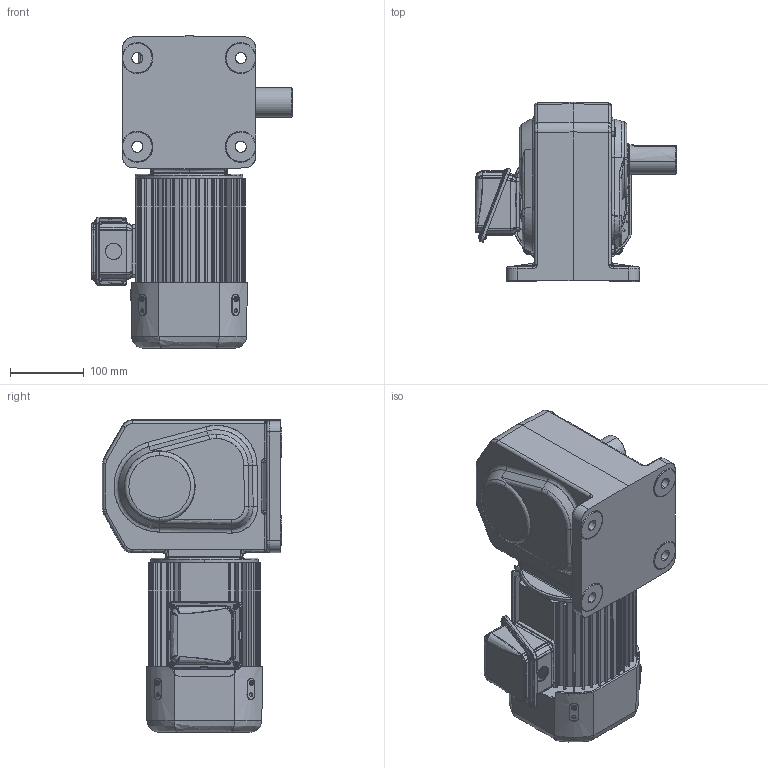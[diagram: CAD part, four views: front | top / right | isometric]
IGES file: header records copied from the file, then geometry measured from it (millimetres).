
Start section: SolidWorks IGES file using analytic representation for surfaces
Global section: file name: \\100.100.100.8\1_共有作業フォルダ\1-5_３Ｄデータ\solidworks\personal-folder\H.Nagayama\HL外形\HL(3D)\igs\TMHLB-07-(80~240)B.IGS; native system: SolidWorks 2018; preprocessor: SolidWorks 2018; author: sigma-giken; date: 200326.172148; units: millimetre
Bounding box: 272 x 242.5 x 422.5 mm (x, y, z)
Surface area: 675154.3 mm2 (no closed solid volume)
Topology: 0 solids, 0 shells, 1664 faces, 20103 edges, 20029 vertices
Faces by surface type: revolution 849, bspline 815
